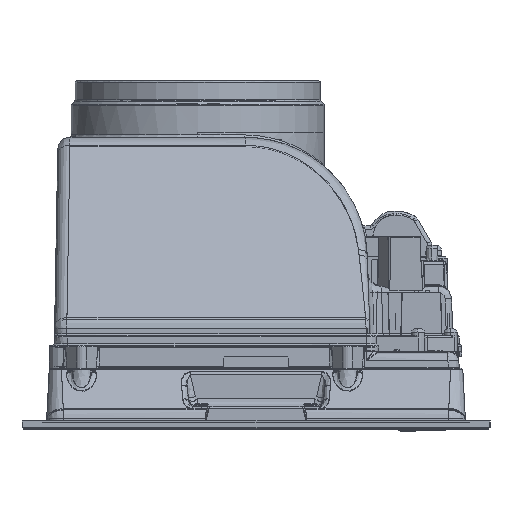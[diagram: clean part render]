
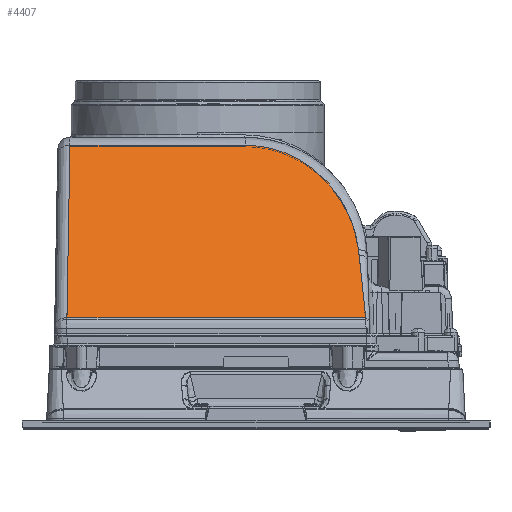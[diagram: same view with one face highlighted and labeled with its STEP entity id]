
A CAD part, left-side view. The second image highlights one B-rep face of the part: STEP entity #4407.
In plain terms, the highlighted planar face has unit normal (-0.737, 0, 0.675) as drawn and (-0.737, -0.676, 0) by its records, which use the part's own axes.
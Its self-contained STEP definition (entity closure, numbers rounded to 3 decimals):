
#4407=ADVANCED_FACE('',(#13002),#135478,.T.);
#13002=FACE_OUTER_BOUND('',#21409,.T.);
#21409=EDGE_LOOP('',(#47603,#47604,#47605,#47606,#47607,#47608));
#47603=ORIENTED_EDGE('',*,*,#79049,.F.);
#47604=ORIENTED_EDGE('',*,*,#79054,.F.);
#47605=ORIENTED_EDGE('',*,*,#79053,.F.);
#47606=ORIENTED_EDGE('',*,*,#79052,.F.);
#47607=ORIENTED_EDGE('',*,*,#79051,.F.);
#47608=ORIENTED_EDGE('',*,*,#79050,.F.);
#79049=EDGE_CURVE('',#122651,#122650,#108104,.T.);
#79050=EDGE_CURVE('',#122650,#122653,#108105,.T.);
#79051=EDGE_CURVE('',#122653,#122654,#108106,.T.);
#79052=EDGE_CURVE('',#122654,#122655,#108107,.T.);
#79053=EDGE_CURVE('',#122655,#122656,#108108,.T.);
#79054=EDGE_CURVE('',#122656,#122651,#108109,.T.);
#108104=B_SPLINE_CURVE_WITH_KNOTS('',1,(#294902,#294903),.UNSPECIFIED.,
 .F.,.F.,(2,2),(-182.607,0.),.UNSPECIFIED.);
#108105=B_SPLINE_CURVE_WITH_KNOTS('',1,(#294904,#294905),.UNSPECIFIED.,
 .F.,.F.,(2,2),(0.,142.973),.UNSPECIFIED.);
#108106=B_SPLINE_CURVE_WITH_KNOTS('',1,(#294906,#294907),.UNSPECIFIED.,
 .F.,.F.,(2,2),(0.,107.211),.UNSPECIFIED.);
#108107=B_SPLINE_CURVE_WITH_KNOTS('',3,(#294908,#294909,#294910,#294911,
#294912,#294913,#294914,#294915,#294916,#294917,#294918,#294919,#294920,
#294921,#294922,#294923,#294924,#294925,#294926,#294927,#294928,#294929,
#294930,#294931,#294932,#294933,#294934,#294935,#294936,#294937,#294938,
#294939,#294940,#294941,#294942,#294943,#294944),.UNSPECIFIED.,.F.,.F.,
(4,1,1,1,1,1,1,1,1,1,1,1,1,1,1,1,1,1,1,1,1,1,1,1,1,1,1,1,1,1,1,1,1,1,4),
(0.,0.,2.536,5.082,7.647,
10.237,12.858,15.518,18.225,20.985,
23.805,26.695,29.661,32.713,35.857,
39.102,42.457,45.929,49.526,53.256,
57.125,61.141,65.307,69.628,74.107,
78.745,83.54,88.49,93.588,98.827,
104.193,109.673,115.22,120.808,120.808),
 .UNSPECIFIED.);
#108108=B_SPLINE_CURVE_WITH_KNOTS('',1,(#294945,#294946),.UNSPECIFIED.,
 .F.,.F.,(2,2),(0.,4.743),.UNSPECIFIED.);
#108109=B_SPLINE_CURVE_WITH_KNOTS('',3,(#294947,#294948,#294949,#294950,
#294951,#294952,#294953,#294954),.UNSPECIFIED.,.F.,.F.,(4,1,1,1,1,4),(0.,
0.001,15.322,29.053,41.286,
52.086),.UNSPECIFIED.);
#122650=VERTEX_POINT('',#290470);
#122651=VERTEX_POINT('',#290471);
#122653=VERTEX_POINT('',#290473);
#122654=VERTEX_POINT('',#290474);
#122655=VERTEX_POINT('',#290475);
#122656=VERTEX_POINT('',#290476);
#135478=PLANE('',#143497);
#143497=AXIS2_PLACEMENT_3D('',#251690,#156375,$);
#156375=DIRECTION('',(-0.737,-0.676,0.));
#251690=CARTESIAN_POINT('',(-104.166,-147.368,-85.983));
#290470=CARTESIAN_POINT('',(-211.031,-30.72,115.551));
#290471=CARTESIAN_POINT('',(-211.031,-30.72,-67.056));
#290473=CARTESIAN_POINT('',(-114.459,-136.133,113.711));
#290474=CARTESIAN_POINT('',(-114.459,-136.133,6.5));
#290475=CARTESIAN_POINT('',(-172.762,-72.492,-62.663));
#290476=CARTESIAN_POINT('',(-175.954,-69.008,-63.073));
#294902=CARTESIAN_POINT('',(-211.031,-30.72,-67.056));
#294903=CARTESIAN_POINT('',(-211.031,-30.72,115.551));
#294904=CARTESIAN_POINT('',(-211.031,-30.72,115.551));
#294905=CARTESIAN_POINT('',(-114.459,-136.133,113.711));
#294906=CARTESIAN_POINT('',(-114.459,-136.133,113.711));
#294907=CARTESIAN_POINT('',(-114.459,-136.133,6.5));
#294908=CARTESIAN_POINT('',(-114.459,-136.133,6.5));
#294909=CARTESIAN_POINT('',(-114.459,-136.133,6.5));
#294910=CARTESIAN_POINT('',(-114.459,-136.133,5.692));
#294911=CARTESIAN_POINT('',(-114.486,-136.103,4.072));
#294912=CARTESIAN_POINT('',(-114.608,-135.97,1.639));
#294913=CARTESIAN_POINT('',(-114.814,-135.746,-0.801));
#294914=CARTESIAN_POINT('',(-115.104,-135.429,-3.249));
#294915=CARTESIAN_POINT('',(-115.482,-135.017,-5.708));
#294916=CARTESIAN_POINT('',(-115.949,-134.506,-8.177));
#294917=CARTESIAN_POINT('',(-116.51,-133.894,-10.656));
#294918=CARTESIAN_POINT('',(-117.168,-133.176,-13.147));
#294919=CARTESIAN_POINT('',(-117.926,-132.348,-15.648));
#294920=CARTESIAN_POINT('',(-118.79,-131.405,-18.159));
#294921=CARTESIAN_POINT('',(-119.763,-130.343,-20.678));
#294922=CARTESIAN_POINT('',(-120.85,-129.156,-23.202));
#294923=CARTESIAN_POINT('',(-122.058,-127.838,-25.73));
#294924=CARTESIAN_POINT('',(-123.391,-126.383,-28.258));
#294925=CARTESIAN_POINT('',(-124.855,-124.785,-30.78));
#294926=CARTESIAN_POINT('',(-126.456,-123.037,-33.292));
#294927=CARTESIAN_POINT('',(-128.2,-121.134,-35.786));
#294928=CARTESIAN_POINT('',(-130.091,-119.069,-38.254));
#294929=CARTESIAN_POINT('',(-132.136,-116.838,-40.687));
#294930=CARTESIAN_POINT('',(-134.338,-114.434,-43.074));
#294931=CARTESIAN_POINT('',(-136.701,-111.854,-45.404));
#294932=CARTESIAN_POINT('',(-139.228,-109.096,-47.663));
#294933=CARTESIAN_POINT('',(-141.921,-106.157,-49.836));
#294934=CARTESIAN_POINT('',(-144.779,-103.037,-51.907));
#294935=CARTESIAN_POINT('',(-147.799,-99.74,-53.86));
#294936=CARTESIAN_POINT('',(-150.979,-96.269,-55.677));
#294937=CARTESIAN_POINT('',(-154.312,-92.632,-57.34));
#294938=CARTESIAN_POINT('',(-157.787,-88.838,-58.83));
#294939=CARTESIAN_POINT('',(-161.393,-84.902,-60.128));
#294940=CARTESIAN_POINT('',(-165.109,-80.846,-61.217));
#294941=CARTESIAN_POINT('',(-168.909,-76.698,-62.08));
#294942=CARTESIAN_POINT('',(-171.473,-73.899,-62.496));
#294943=CARTESIAN_POINT('',(-172.762,-72.492,-62.663));
#294944=CARTESIAN_POINT('',(-172.762,-72.492,-62.663));
#294945=CARTESIAN_POINT('',(-172.762,-72.492,-62.663));
#294946=CARTESIAN_POINT('',(-175.954,-69.008,-63.073));
#294947=CARTESIAN_POINT('',(-175.954,-69.008,-63.073));
#294948=CARTESIAN_POINT('',(-175.954,-69.008,-63.073));
#294949=CARTESIAN_POINT('',(-179.39,-65.257,-63.516));
#294950=CARTESIAN_POINT('',(-185.902,-58.149,-64.406));
#294951=CARTESIAN_POINT('',(-195.161,-48.042,-65.615));
#294952=CARTESIAN_POINT('',(-203.418,-39.03,-66.517));
#294953=CARTESIAN_POINT('',(-208.6,-33.373,-66.917));
#294954=CARTESIAN_POINT('',(-211.031,-30.72,-67.056));
